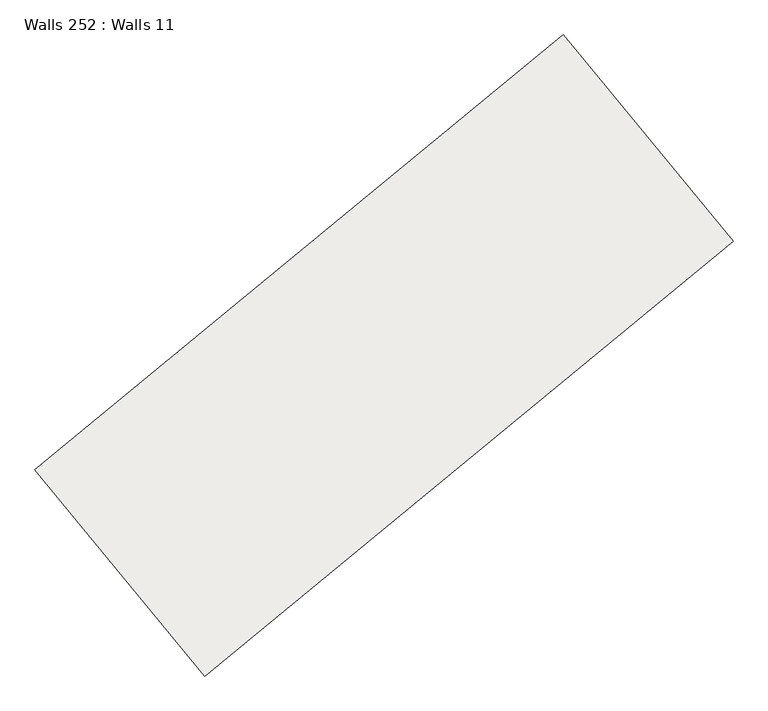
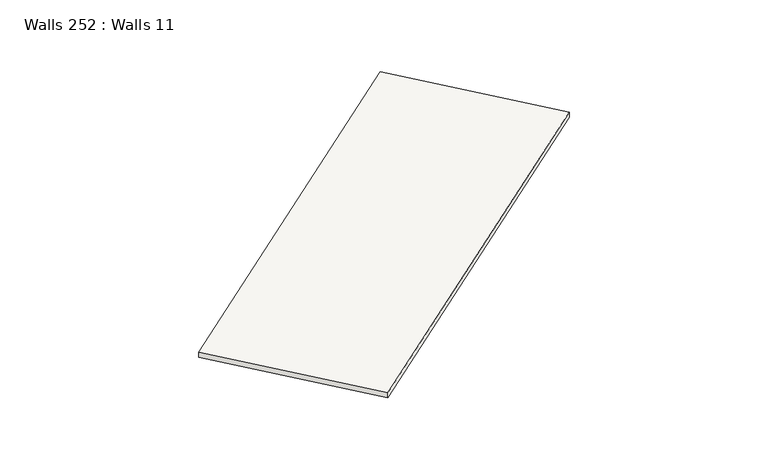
"""IFC4 building model written with IfcOpenShell, lengths in millimetres: slab geometry, Walls 252 : Walls 11."""

from ifc_helpers import new_model, si_unit, frame, origin, place, context, project, spatial, polyline, outline, extrude, source, transform, mapped, element, save


def walls_252_walls_11_cd1f8c31(model_context):
    return source(origin(), model_context, "Body", "SweptSolid", [
        extrude(outline(polyline([(-50.0, 0.0), (50.0, 0.0), (-20.0, -8700.0000007), (-120.0, -8700.0000007), (-50.0, 0.0)])), frame((-270744.7949298, -430062.2546119, 634280.0), z_axis=(-0.6353361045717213, 0.7722357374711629, 0.0), x_axis=(0.0, 0.0, 1.0)), (0.0, 0.0, 1.0), 3400.0),
    ])


if __name__ == "__main__":
    model = new_model("IFC4")
    model_context = context("Model", 3, world=origin())
    ifc_project = project(units=[si_unit("LENGTHUNIT", "METRE", prefix="MILLI")], contexts=[model_context])
    site = spatial("IfcSite", under=ifc_project)
    building = spatial("IfcBuilding", under=site)
    placement = place(None, origin())
    walls_252_walls_11_shape = walls_252_walls_11_cd1f8c31(model_context)
    element("IfcSlab", 1, ObjectType="Walls 252 : Walls 11", at=placement, inside=building, context=model_context, shape_type="MappedRepresentation", body=[
        mapped(walls_252_walls_11_shape, transform((0.0, 0.0, 0.0), x_axis=(1.0, 0.0, 0.0), y_axis=(0.0, 1.0, 0.0), z_axis=(0.0, 0.0, 1.0))),
    ])
    save(model, "model.ifc")
